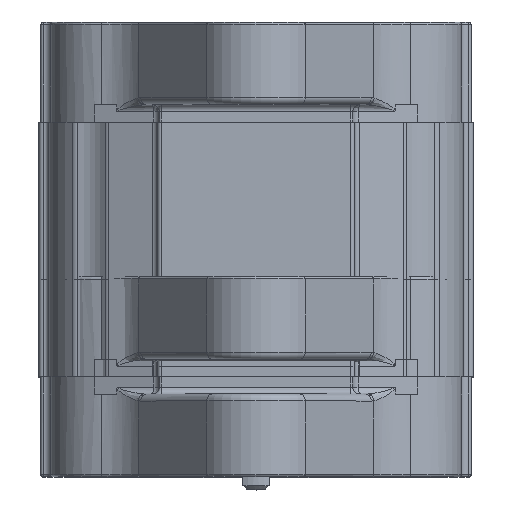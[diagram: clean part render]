
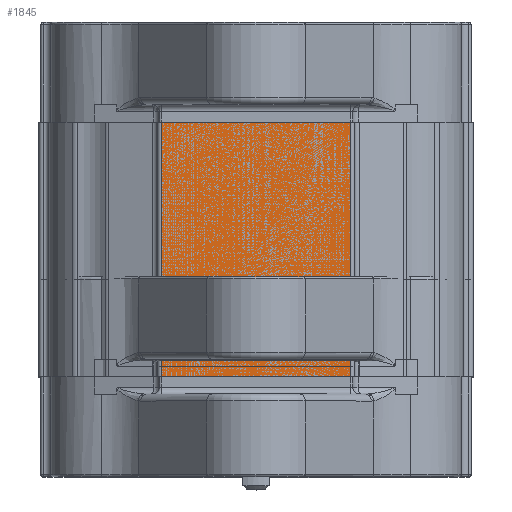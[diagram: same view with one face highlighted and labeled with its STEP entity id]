
A CAD part, top view. The second image highlights one B-rep face of the part: STEP entity #1845.
In plain terms, the highlighted planar face has unit normal (0, 0, 1) as drawn and (0, 0, -1) by its records, which use the part's own axes.
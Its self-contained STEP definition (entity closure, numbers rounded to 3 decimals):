
#1845 = ADVANCED_FACE( '', ( #4488 ), #4489, .T. );
#4488 = FACE_OUTER_BOUND( '', #8553, .T. );
#4489 = PLANE( '', #8554 );
#8553 = EDGE_LOOP( '', ( #16046, #16047, #16048, #16049 ) );
#8554 = AXIS2_PLACEMENT_3D( '', #16050, #16051, #16052 );
#16046 = ORIENTED_EDGE( '', *, *, #22893, .F. );
#16047 = ORIENTED_EDGE( '', *, *, #24483, .F. );
#16048 = ORIENTED_EDGE( '', *, *, #23168, .T. );
#16049 = ORIENTED_EDGE( '', *, *, #23231, .T. );
#16050 = CARTESIAN_POINT( '', ( -10.923, 29.3, -27. ) );
#16051 = DIRECTION( '', ( 0., 0., -1. ) );
#16052 = DIRECTION( '', ( -1., 0., 0. ) );
#22893 = EDGE_CURVE( '', #27125, #27127, #27128, .T. );
#23168 = EDGE_CURVE( '', #27620, #27618, #27621, .T. );
#23231 = EDGE_CURVE( '', #27618, #27127, #27733, .T. );
#24483 = EDGE_CURVE( '', #27620, #27125, #29716, .T. );
#27125 = VERTEX_POINT( '', #33200 );
#27127 = VERTEX_POINT( '', #33202 );
#27128 = LINE( '', #33203, #33204 );
#27618 = VERTEX_POINT( '', #34134 );
#27620 = VERTEX_POINT( '', #34136 );
#27621 = LINE( '', #34137, #34138 );
#27733 = LINE( '', #34294, #34295 );
#29716 = LINE( '', #38857, #38858 );
#33200 = CARTESIAN_POINT( '', ( -10.923, 0., -27. ) );
#33202 = CARTESIAN_POINT( '', ( 10.923, 0., -27. ) );
#33203 = CARTESIAN_POINT( '', ( -10.923, 0., -27. ) );
#33204 = VECTOR( '', #44492, 1000. );
#34134 = CARTESIAN_POINT( '', ( 10.923, 29.3, -27. ) );
#34136 = CARTESIAN_POINT( '', ( -10.923, 29.3, -27. ) );
#34137 = CARTESIAN_POINT( '', ( -10.923, 29.3, -27. ) );
#34138 = VECTOR( '', #44879, 1000. );
#34294 = CARTESIAN_POINT( '', ( 10.923, 29.3, -27. ) );
#34295 = VECTOR( '', #44991, 1000. );
#38857 = CARTESIAN_POINT( '', ( -10.923, 29.3, -27. ) );
#38858 = VECTOR( '', #46494, 1000. );
#44492 = DIRECTION( '', ( 1., 0., 0. ) );
#44879 = DIRECTION( '', ( 1., 0., 0. ) );
#44991 = DIRECTION( '', ( 0., -1., 0. ) );
#46494 = DIRECTION( '', ( 0., -1., 0. ) );
